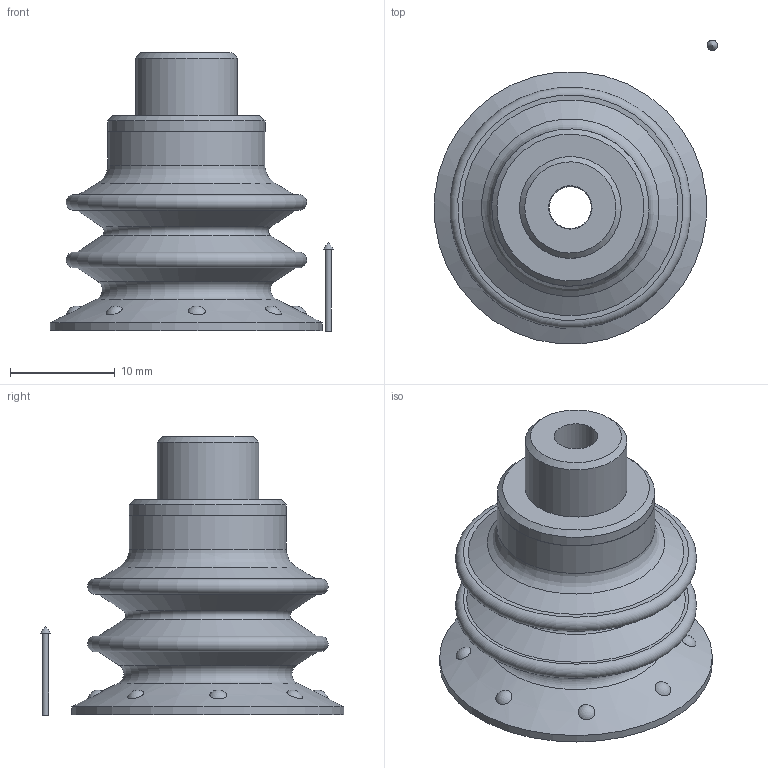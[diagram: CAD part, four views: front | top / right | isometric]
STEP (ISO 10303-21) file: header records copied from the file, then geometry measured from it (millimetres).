
FILE_DESCRIPTION(('STEP AP214'),'1');
FILE_NAME('KIT.08.36.D25.stp','2019-04-29T08:51:02',(' '),(' '),'Spatial InterOp 3D',' ',' ');
FILE_SCHEMA(('AUTOMOTIVE_DESIGN { 1 0 10303 214 1 1 1 1 }'));
Length unit declared in the file: millimetre
Products named in the file (6): KIT.08.36.D25; CA.08.09.032; CA.08.36.D25; freccia4; 08.36.D25.2; 08.36.D25.1
Assembly tree (5 placements, depth 3):
  KIT.08.36.D25
    CA.08.09.032
    CA.08.36.D25
      freccia4
      08.36.D25.2
      08.36.D25.1
Bounding box: 26.99 x 28.94 x 26.55 mm (x, y, z)
Volume: 3159.2 mm3; surface area: 4915.2 mm2
Topology: 4 solids, 4 shells, 88 faces, 181 edges, 118 vertices
Faces by surface type: plane 34, cone 16, cylinder 15, torus 15, sphere 8
Full cylindrical faces by diameter (mm): 0.6 x1, 4 x1, 4.134 x1, 5 x2, 6 x1, 6.5 x1, 7.5 x1, 8 x2, 9.7 x1, 11.5 x1, 15 x2, 26 x1
Entity records: 3111 total; most frequent: CARTESIAN_POINT 600, DIRECTION 378, ORIENTED_EDGE 252, AXIS2_PLACEMENT_3D 173, EDGE_LOOP 154, EDGE_CURVE 126, FACE_OUTER_BOUND 114, VERTEX_POINT 107
